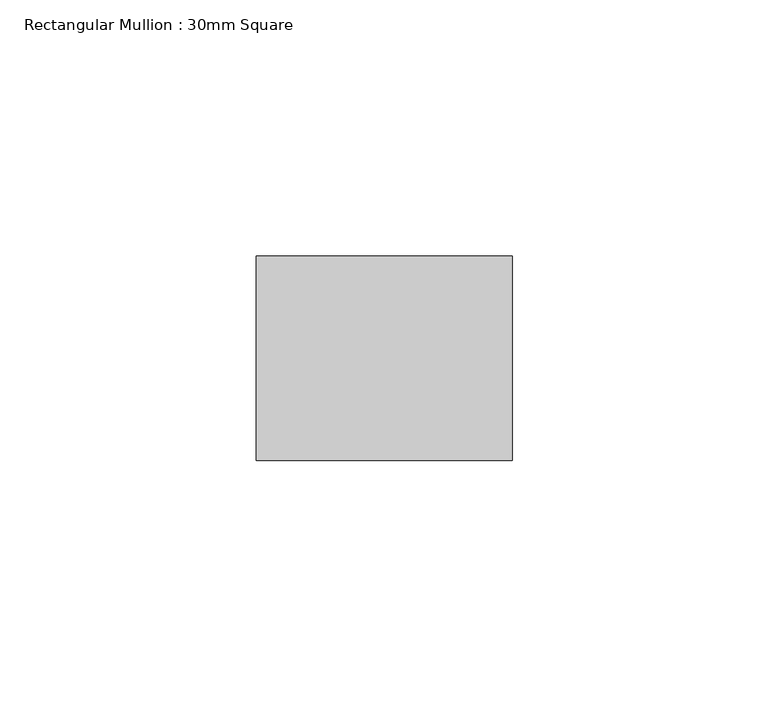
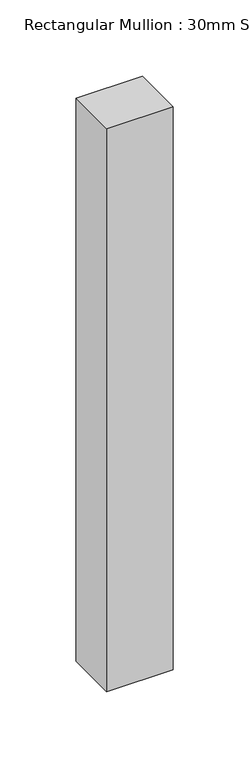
"""IFC4 building model written with IfcOpenShell, lengths in millimetres: member geometry, Rectangular Mullion : 30mm Square."""

from ifc_helpers import new_model, si_unit, frame, origin, place, context, project, spatial, polyline, outline, extrude, source, transform, mapped, element, save


def rectangular_mullion_30mm_square_9f401dcf(model_context):
    return source(origin(), model_context, "Body", "SweptSolid", [
        extrude(outline(polyline([(25.0, 20.0), (25.0, -20.0), (-25.0, -20.0), (-25.0, 20.0), (25.0, 20.0)])), frame((0.0, 0.0, -450.0), z_axis=(0.0, 0.0, 1.0), x_axis=(1.0, 0.0, 0.0)), (0.0, 0.0, 1.0), 450.0),
    ])


if __name__ == "__main__":
    model = new_model("IFC4")
    model_context = context("Model", 3, world=origin())
    ifc_project = project(units=[si_unit("LENGTHUNIT", "METRE", prefix="MILLI")], contexts=[model_context])
    site = spatial("IfcSite", under=ifc_project)
    building = spatial("IfcBuilding", under=site)
    placement = place(None, origin())
    rectangular_mullion_30mm_square_shape = rectangular_mullion_30mm_square_9f401dcf(model_context)
    element("IfcMember", 1, ObjectType="Rectangular Mullion : 30mm Square", at=placement, inside=building, context=model_context, shape_type="MappedRepresentation", body=[
        mapped(rectangular_mullion_30mm_square_shape, transform((0.0, 0.0, 0.0), x_axis=(1.0, 0.0, 0.0), y_axis=(0.0, 1.0, 0.0), z_axis=(0.0, 0.0, 1.0))),
    ])
    save(model, "model.ifc")
